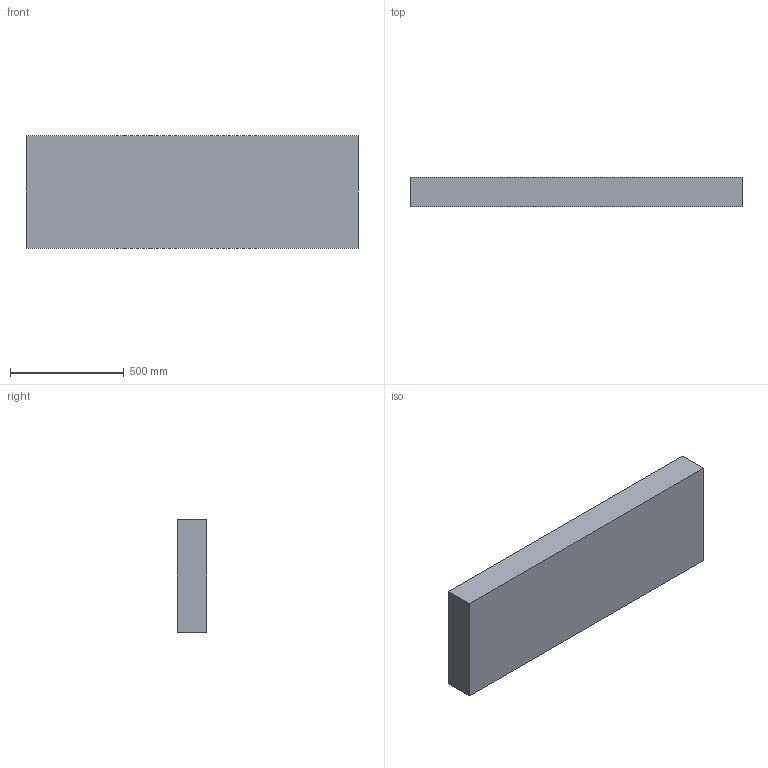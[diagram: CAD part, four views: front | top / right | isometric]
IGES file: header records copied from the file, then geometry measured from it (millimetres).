
Start section: SolidWorks IGES file using analytic representation for surfaces
Global section: file name: C:\Users\chad.chaiyont\My Project\Vault Case\Vault TOR\Vault CAD\PP PID cad\V800 PP\V800 PP tubs\V800 PP BOTTOM TUB 2-10-2024.IGS; native system: SolidWorks 2021; preprocessor: SolidWorks 2021; author: Chad.Chaiyont; date: 240212.072356; units: millimetre
Bounding box: 1457.34 x 130.65 x 495.96 mm (x, y, z)
Surface area: 2430029.1 mm2 (no closed solid volume)
Topology: 0 solids, 0 shells, 803 faces, 4453 edges, 4366 vertices
Faces by surface type: bspline 803
